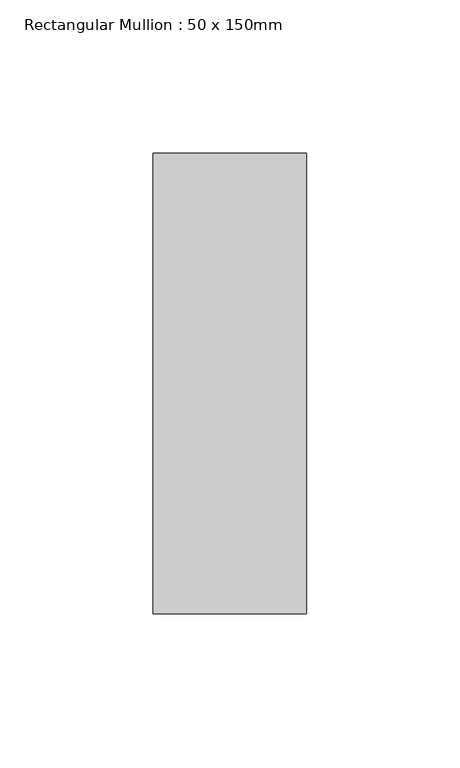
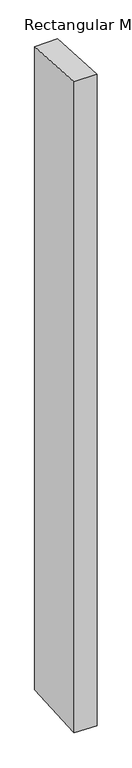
"""IFC4 building model written with IfcOpenShell, lengths in millimetres: member geometry, Rectangular Mullion : 50 x 150mm."""

from ifc_helpers import new_model, si_unit, origin, place, context, project, spatial, faceted_brep, source, transform, mapped, element, save


def rectangular_mullion_50_x_150mm_fa5f5fe4(model_context):
    return source(origin(), model_context, "Body", "Brep", [
        faceted_brep([(-50.0, 75.0, -5.1534746), (0.0, 75.0, -4.6980971), (0.0, 75.0, -1495.3019029), (-50.0, 75.0, -1494.8465254), (-50.0, -75.0, 4.2427197), (-50.0, -75.0, -1504.2427197), (0.0, -75.0, 4.6980971), (0.0, -75.0, -1504.6980971)], [[[0, 1, 2, 3]], [[4, 0, 3, 5]], [[6, 4, 5, 7]], [[1, 6, 7, 2]], [[1, 0, 4, 6]], [[2, 7, 5, 3]]]),
    ])


if __name__ == "__main__":
    model = new_model("IFC4")
    model_context = context("Model", 3, world=origin())
    ifc_project = project(units=[si_unit("LENGTHUNIT", "METRE", prefix="MILLI")], contexts=[model_context])
    site = spatial("IfcSite", under=ifc_project)
    building = spatial("IfcBuilding", under=site)
    placement = place(None, origin())
    rectangular_mullion_50_x_150mm_shape = rectangular_mullion_50_x_150mm_fa5f5fe4(model_context)
    element("IfcMember", 1, ObjectType="Rectangular Mullion : 50 x 150mm", at=placement, inside=building, context=model_context, shape_type="MappedRepresentation", body=[
        mapped(rectangular_mullion_50_x_150mm_shape, transform((0.0, 0.0, 0.0), x_axis=(1.0, 0.0, 0.0), y_axis=(0.0, 1.0, 0.0), z_axis=(0.0, 0.0, 1.0))),
    ])
    save(model, "model.ifc")
